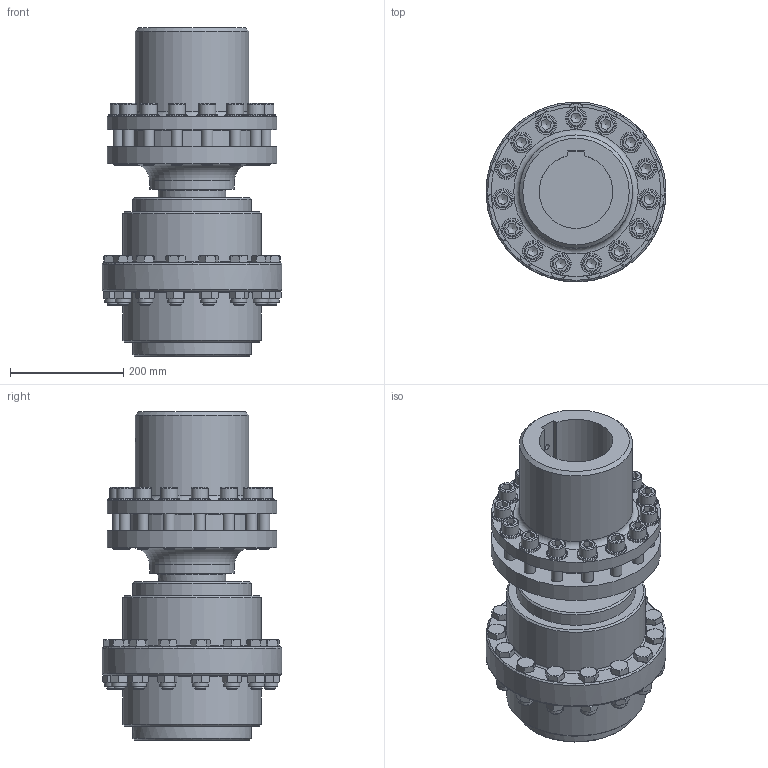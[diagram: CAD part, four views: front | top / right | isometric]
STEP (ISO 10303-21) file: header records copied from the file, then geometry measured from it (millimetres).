
FILE_DESCRIPTION(/* description */ (''),/* implementation_level */ '2;1');
FILE_NAME(/* name */ 'C:\Users\milman01\Desktop\step file\xxxxxx\35222.stp',/* time_stamp */ '2017-03-15T11:23:20+01:00',/* author */ ('milman01'),/* organization */ (''),/* preprocessor_version */ 'ST-DEVELOPER v16.1',/* originating_system */ 'Autodesk Inventor 2016',/* authorisation */ '');
FILE_SCHEMA (('AUTOMOTIVE_DESIGN { 1 0 10303 214 3 1 1 }'));
Length unit declared in the file: millimetre
Products named in the file (1): 46870_Shrinkwrap_1
Bounding box: 317.97 x 317.94 x 580 mm (x, y, z)
Volume: 20451407.5 mm3; surface area: 1516507.6 mm2
Topology: 1 solids, 20 shells, 889 faces, 2016 edges, 1305 vertices
Faces by surface type: plane 468, cone 208, cylinder 184, torus 29
Full cylindrical faces by diameter (mm): 10.106 x1, 20 x60, 20.8 x15, 21 x15, 27.7 x15, 28.2 x15, 30 x15, 37 x15, 120 x3, 150 x1, 200 x1, 210 x8, 216 x2, 216.5 x4, 220 x2, 222.5 x1, 245 x2, 300 x2, 318 x1
Entity records: 22636 total; most frequent: CARTESIAN_POINT 4609, DIRECTION 3483, ORIENTED_EDGE 3116, EDGE_CURVE 1558, AXIS2_PLACEMENT_3D 1497, EDGE_LOOP 1420, VERTEX_POINT 1170, STYLED_ITEM 890
